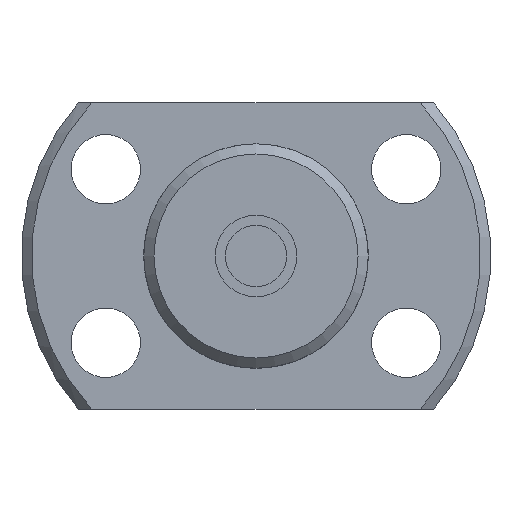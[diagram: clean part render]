
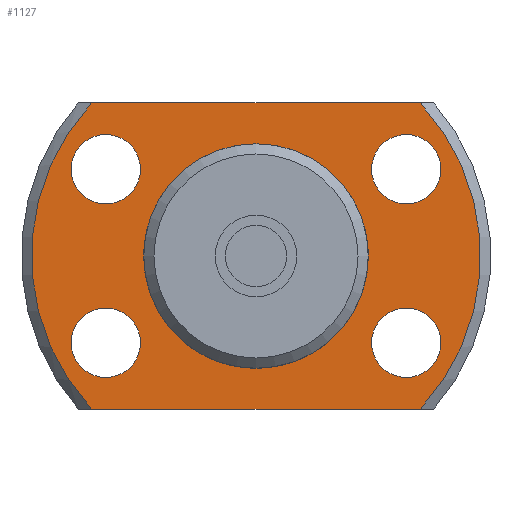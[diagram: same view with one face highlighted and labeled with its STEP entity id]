
A CAD part, left-side view. The second image highlights one B-rep face of the part: STEP entity #1127.
In plain terms, the highlighted planar face has unit normal (-1, 0, 0) as drawn and (1, 0, 0) by its records, which use the part's own axes.
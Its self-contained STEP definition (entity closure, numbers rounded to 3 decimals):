
#93=LINE('',#1952,#159);
#94=LINE('',#1954,#160);
#159=VECTOR('',#1578,1000.);
#160=VECTOR('',#1579,1000.);
#362=ORIENTED_EDGE('',*,*,#609,.T.);
#363=ORIENTED_EDGE('',*,*,#591,.T.);
#364=ORIENTED_EDGE('',*,*,#610,.T.);
#365=ORIENTED_EDGE('',*,*,#611,.T.);
#366=ORIENTED_EDGE('',*,*,#612,.F.);
#367=ORIENTED_EDGE('',*,*,#613,.F.);
#368=ORIENTED_EDGE('',*,*,#614,.F.);
#369=ORIENTED_EDGE('',*,*,#615,.F.);
#370=ORIENTED_EDGE('',*,*,#584,.F.);
#584=EDGE_CURVE('',#717,#717,#798,.T.);
#591=EDGE_CURVE('',#721,#723,#801,.T.);
#609=EDGE_CURVE('',#739,#721,#93,.T.);
#610=EDGE_CURVE('',#723,#740,#94,.T.);
#611=EDGE_CURVE('',#740,#739,#813,.T.);
#612=EDGE_CURVE('',#741,#741,#814,.T.);
#613=EDGE_CURVE('',#742,#742,#815,.T.);
#614=EDGE_CURVE('',#743,#743,#816,.T.);
#615=EDGE_CURVE('',#744,#744,#817,.T.);
#717=VERTEX_POINT('',#1886);
#721=VERTEX_POINT('',#1898);
#723=VERTEX_POINT('',#1905);
#739=VERTEX_POINT('',#1953);
#740=VERTEX_POINT('',#1955);
#741=VERTEX_POINT('',#1958);
#742=VERTEX_POINT('',#1960);
#743=VERTEX_POINT('',#1962);
#744=VERTEX_POINT('',#1964);
#798=CIRCLE('',#1262,5.3);
#801=CIRCLE('',#1266,11.);
#813=CIRCLE('',#1285,11.);
#814=CIRCLE('',#1286,1.7);
#815=CIRCLE('',#1287,1.7);
#816=CIRCLE('',#1288,1.7);
#817=CIRCLE('',#1289,1.7);
#897=EDGE_LOOP('',(#362,#363,#364,#365));
#898=EDGE_LOOP('',(#366));
#899=EDGE_LOOP('',(#367));
#900=EDGE_LOOP('',(#368));
#901=EDGE_LOOP('',(#369));
#902=EDGE_LOOP('',(#370));
#1009=FACE_BOUND('',#897,.T.);
#1010=FACE_BOUND('',#898,.T.);
#1011=FACE_BOUND('',#899,.T.);
#1012=FACE_BOUND('',#900,.T.);
#1013=FACE_BOUND('',#901,.T.);
#1014=FACE_BOUND('',#902,.T.);
#1068=PLANE('',#1284);
#1127=ADVANCED_FACE('',(#1009,#1010,#1011,#1012,#1013,#1014),#1068,.T.);
#1262=AXIS2_PLACEMENT_3D('',#1885,#1526,#1527);
#1266=AXIS2_PLACEMENT_3D('',#1906,#1536,#1537);
#1284=AXIS2_PLACEMENT_3D('',#1951,#1576,#1577);
#1285=AXIS2_PLACEMENT_3D('',#1956,#1580,#1581);
#1286=AXIS2_PLACEMENT_3D('',#1957,#1582,#1583);
#1287=AXIS2_PLACEMENT_3D('',#1959,#1584,#1585);
#1288=AXIS2_PLACEMENT_3D('',#1961,#1586,#1587);
#1289=AXIS2_PLACEMENT_3D('',#1963,#1588,#1589);
#1526=DIRECTION('',(1.,0.,0.));
#1527=DIRECTION('',(0.,0.,-1.));
#1536=DIRECTION('',(1.,0.,0.));
#1537=DIRECTION('',(0.,0.,-1.));
#1576=DIRECTION('',(1.,0.,0.));
#1577=DIRECTION('',(0.,0.,-1.));
#1578=DIRECTION('',(0.,-1.,0.));
#1579=DIRECTION('',(0.,1.,0.));
#1580=DIRECTION('',(1.,0.,0.));
#1581=DIRECTION('',(0.,0.,-1.));
#1582=DIRECTION('',(1.,0.,0.));
#1583=DIRECTION('',(0.,0.,-1.));
#1584=DIRECTION('',(1.,0.,0.));
#1585=DIRECTION('',(0.,0.,-1.));
#1586=DIRECTION('',(1.,0.,0.));
#1587=DIRECTION('',(0.,0.,-1.));
#1588=DIRECTION('',(1.,0.,0.));
#1589=DIRECTION('',(0.,0.,-1.));
#1885=CARTESIAN_POINT('',(4.,0.,0.));
#1886=CARTESIAN_POINT('',(4.,0.,-5.3));
#1898=CARTESIAN_POINT('',(4.,-8.047,7.5));
#1905=CARTESIAN_POINT('',(4.,-8.047,-7.5));
#1906=CARTESIAN_POINT('',(4.,0.,0.));
#1951=CARTESIAN_POINT('',(4.,5.3,0.));
#1952=CARTESIAN_POINT('',(4.,11.5,7.5));
#1953=CARTESIAN_POINT('',(4.,8.047,7.5));
#1954=CARTESIAN_POINT('',(4.,-11.5,-7.5));
#1955=CARTESIAN_POINT('',(4.,8.047,-7.5));
#1956=CARTESIAN_POINT('',(4.,0.,0.));
#1957=CARTESIAN_POINT('',(4.,7.361,4.25));
#1958=CARTESIAN_POINT('',(4.,7.361,2.55));
#1959=CARTESIAN_POINT('',(4.,-7.361,4.25));
#1960=CARTESIAN_POINT('',(4.,-7.361,2.55));
#1961=CARTESIAN_POINT('',(4.,-7.361,-4.25));
#1962=CARTESIAN_POINT('',(4.,-7.361,-5.95));
#1963=CARTESIAN_POINT('',(4.,7.361,-4.25));
#1964=CARTESIAN_POINT('',(4.,7.361,-5.95));
